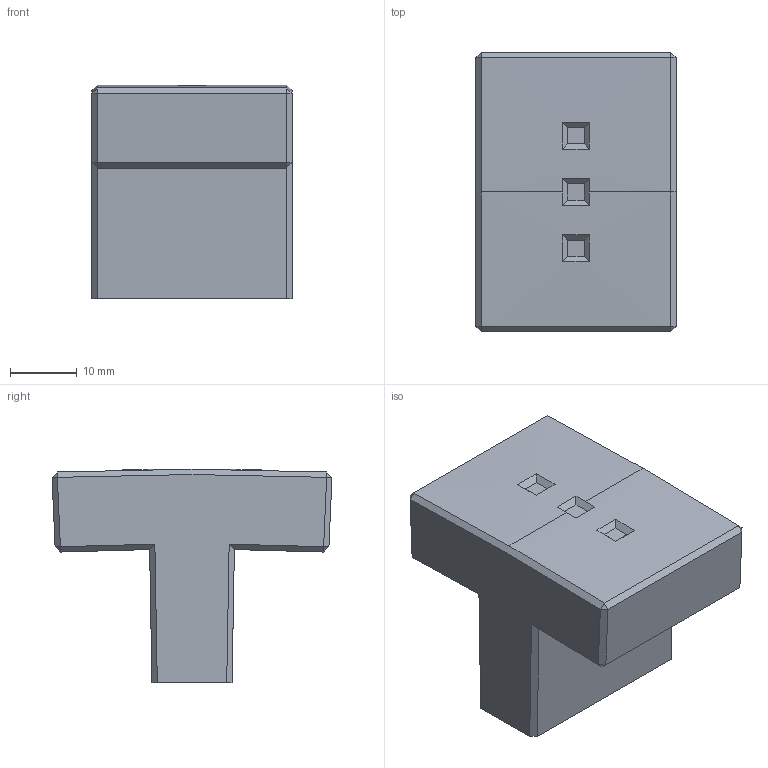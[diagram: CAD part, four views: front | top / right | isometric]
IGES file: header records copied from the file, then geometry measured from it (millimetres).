
Start section: C
Global section: file name: 095-42.igs; native system: By Siemens PLM Incorporated; preprocessor: XPlus GENERIC/IGES 16.0.42; author: Author; organization: Title; date: 20231211.085728; units: millimetre
Bounding box: 30 x 41.93 x 32 mm (x, y, z)
Surface area: 9694.4 mm2 (no closed solid volume)
Topology: 0 solids, 0 shells, 83 faces, 410 edges, 410 vertices
Faces by surface type: bspline 83
